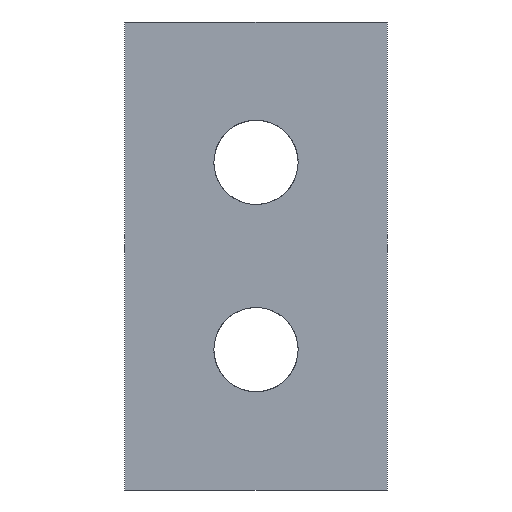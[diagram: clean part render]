
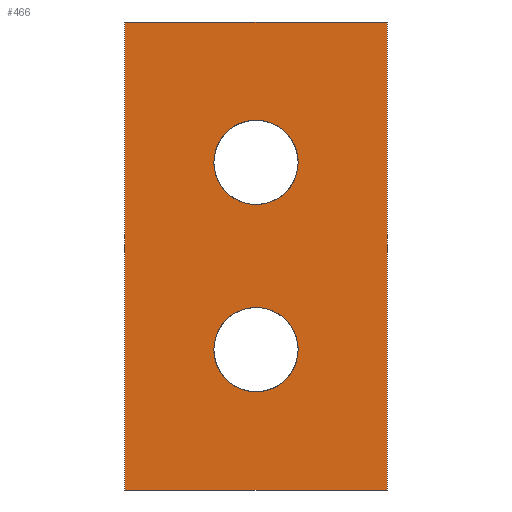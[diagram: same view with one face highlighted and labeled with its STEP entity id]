
A CAD part, front view. The second image highlights one B-rep face of the part: STEP entity #466.
In plain terms, the highlighted face is a extrusion surface.
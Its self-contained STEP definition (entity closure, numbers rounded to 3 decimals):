
#355=CARTESIAN_POINT('Control Point',(-28.,0.,0.)) ;
#356=CARTESIAN_POINT('Control Point',(-28.,0.,-50.)) ;
#360=CARTESIAN_POINT('Line Origine',(-14.,0.,-50.)) ;
#364=CARTESIAN_POINT('Vertex',(-28.,0.,-50.)) ;
#366=CARTESIAN_POINT('Vertex',(0.,0.,-50.)) ;
#369=CARTESIAN_POINT('Line Origine',(0.,0.,-25.)) ;
#373=CARTESIAN_POINT('Vertex',(0.,0.,0.)) ;
#376=CARTESIAN_POINT('Line Origine',(-14.,0.,0.)) ;
#380=CARTESIAN_POINT('Vertex',(-28.,0.,0.)) ;
#383=CARTESIAN_POINT('Line Origine',(-28.,0.,-25.)) ;
#395=CARTESIAN_POINT('Control Point',(-9.5,0.,-35.)) ;
#396=CARTESIAN_POINT('Control Point',(-9.5,0.,-36.247)) ;
#397=CARTESIAN_POINT('Control Point',(-9.932,0.,-37.494)) ;
#398=CARTESIAN_POINT('Control Point',(-10.8,0.,-38.539)) ;
#399=CARTESIAN_POINT('Control Point',(-12.71,0.,-39.63)) ;
#400=CARTESIAN_POINT('Control Point',(-14.841,0.,-39.54)) ;
#401=CARTESIAN_POINT('Control Point',(-15.671,0.,-39.305)) ;
#402=CARTESIAN_POINT('Control Point',(-17.085,0.,-38.511)) ;
#403=CARTESIAN_POINT('Control Point',(-18.032,0.,-37.204)) ;
#404=CARTESIAN_POINT('Control Point',(-18.344,0.,-36.498)) ;
#405=CARTESIAN_POINT('Control Point',(-18.5,0.,-35.749)) ;
#406=CARTESIAN_POINT('Control Point',(-18.5,0.,-35.)) ;
#407=CARTESIAN_POINT('Vertex',(-9.5,0.,-35.)) ;
#409=CARTESIAN_POINT('Vertex',(-18.5,0.,-35.)) ;
#413=CARTESIAN_POINT('Control Point',(-18.5,0.,-35.)) ;
#414=CARTESIAN_POINT('Control Point',(-18.5,0.,-33.753)) ;
#415=CARTESIAN_POINT('Control Point',(-18.068,0.,-32.506)) ;
#416=CARTESIAN_POINT('Control Point',(-17.2,0.,-31.461)) ;
#417=CARTESIAN_POINT('Control Point',(-15.29,0.,-30.37)) ;
#418=CARTESIAN_POINT('Control Point',(-13.159,0.,-30.46)) ;
#419=CARTESIAN_POINT('Control Point',(-12.329,0.,-30.695)) ;
#420=CARTESIAN_POINT('Control Point',(-10.915,0.,-31.489)) ;
#421=CARTESIAN_POINT('Control Point',(-9.968,0.,-32.796)) ;
#422=CARTESIAN_POINT('Control Point',(-9.656,0.,-33.502)) ;
#423=CARTESIAN_POINT('Control Point',(-9.5,0.,-34.251)) ;
#424=CARTESIAN_POINT('Control Point',(-9.5,0.,-35.)) ;
#431=CARTESIAN_POINT('Control Point',(-9.5,0.,-15.)) ;
#432=CARTESIAN_POINT('Control Point',(-9.5,0.,-16.247)) ;
#433=CARTESIAN_POINT('Control Point',(-9.932,0.,-17.494)) ;
#434=CARTESIAN_POINT('Control Point',(-10.8,0.,-18.539)) ;
#435=CARTESIAN_POINT('Control Point',(-12.71,0.,-19.63)) ;
#436=CARTESIAN_POINT('Control Point',(-14.841,0.,-19.54)) ;
#437=CARTESIAN_POINT('Control Point',(-15.671,0.,-19.305)) ;
#438=CARTESIAN_POINT('Control Point',(-17.085,0.,-18.511)) ;
#439=CARTESIAN_POINT('Control Point',(-18.032,0.,-17.204)) ;
#440=CARTESIAN_POINT('Control Point',(-18.344,0.,-16.498)) ;
#441=CARTESIAN_POINT('Control Point',(-18.5,0.,-15.749)) ;
#442=CARTESIAN_POINT('Control Point',(-18.5,0.,-15.)) ;
#443=CARTESIAN_POINT('Vertex',(-9.5,0.,-15.)) ;
#445=CARTESIAN_POINT('Vertex',(-18.5,0.,-15.)) ;
#449=CARTESIAN_POINT('Control Point',(-18.5,0.,-15.)) ;
#450=CARTESIAN_POINT('Control Point',(-18.5,0.,-13.753)) ;
#451=CARTESIAN_POINT('Control Point',(-18.068,0.,-12.506)) ;
#452=CARTESIAN_POINT('Control Point',(-17.2,0.,-11.461)) ;
#453=CARTESIAN_POINT('Control Point',(-15.29,0.,-10.37)) ;
#454=CARTESIAN_POINT('Control Point',(-13.159,0.,-10.46)) ;
#455=CARTESIAN_POINT('Control Point',(-12.329,0.,-10.695)) ;
#456=CARTESIAN_POINT('Control Point',(-10.915,0.,-11.489)) ;
#457=CARTESIAN_POINT('Control Point',(-9.968,0.,-12.796)) ;
#458=CARTESIAN_POINT('Control Point',(-9.656,0.,-13.502)) ;
#459=CARTESIAN_POINT('Control Point',(-9.5,0.,-14.251)) ;
#460=CARTESIAN_POINT('Control Point',(-9.5,0.,-15.)) ;
#357=DIRECTION('Vector Direction',(1.,0.,0.)) ;
#361=DIRECTION('Vector Direction',(1.,0.,0.)) ;
#370=DIRECTION('Vector Direction',(0.,0.,-1.)) ;
#377=DIRECTION('Vector Direction',(1.,0.,0.)) ;
#384=DIRECTION('Vector Direction',(0.,0.,-1.)) ;
#389=ORIENTED_EDGE('',*,*,#368,.T.) ;
#390=ORIENTED_EDGE('',*,*,#375,.T.) ;
#391=ORIENTED_EDGE('',*,*,#382,.T.) ;
#392=ORIENTED_EDGE('',*,*,#387,.T.) ;
#427=ORIENTED_EDGE('',*,*,#411,.T.) ;
#428=ORIENTED_EDGE('',*,*,#425,.T.) ;
#463=ORIENTED_EDGE('',*,*,#447,.T.) ;
#464=ORIENTED_EDGE('',*,*,#461,.T.) ;
#429=FACE_BOUND('',#426,.T.) ;
#465=FACE_BOUND('',#462,.T.) ;
#358=VECTOR('Extrusion Surface Vector',#357,1.) ;
#362=VECTOR('Line Direction',#361,1.) ;
#371=VECTOR('Line Direction',#370,1.) ;
#378=VECTOR('Line Direction',#377,1.) ;
#385=VECTOR('Line Direction',#384,1.) ;
#466=ADVANCED_FACE('Superficie.6',(#393,#429,#465),#359,.T.) ;
#354=B_SPLINE_CURVE_WITH_KNOTS('',1,(#355,#356),.UNSPECIFIED.,.F.,.U.,(2,2),(-25.,25.),.UNSPECIFIED.) ;
#394=B_SPLINE_CURVE_WITH_KNOTS('',5,(#395,#396,#397,#398,#399,#400,#401,#402,#403,#404,#405,#406),.UNSPECIFIED.,.F.,.U.,(6,3,3,6),(0.,8.818,14.697,19.993),.UNSPECIFIED.) ;
#412=B_SPLINE_CURVE_WITH_KNOTS('',5,(#413,#414,#415,#416,#417,#418,#419,#420,#421,#422,#423,#424),.UNSPECIFIED.,.F.,.U.,(6,3,3,6),(0.,8.818,14.697,19.993),.UNSPECIFIED.) ;
#430=B_SPLINE_CURVE_WITH_KNOTS('',5,(#431,#432,#433,#434,#435,#436,#437,#438,#439,#440,#441,#442),.UNSPECIFIED.,.F.,.U.,(6,3,3,6),(0.,8.818,14.697,19.993),.UNSPECIFIED.) ;
#448=B_SPLINE_CURVE_WITH_KNOTS('',5,(#449,#450,#451,#452,#453,#454,#455,#456,#457,#458,#459,#460),.UNSPECIFIED.,.F.,.U.,(6,3,3,6),(0.,8.818,14.697,19.993),.UNSPECIFIED.) ;
#368=EDGE_CURVE('',#365,#367,#363,.T.) ;
#375=EDGE_CURVE('',#367,#374,#372,.F.) ;
#382=EDGE_CURVE('',#374,#381,#379,.F.) ;
#387=EDGE_CURVE('',#381,#365,#386,.T.) ;
#411=EDGE_CURVE('',#408,#410,#394,.T.) ;
#425=EDGE_CURVE('',#410,#408,#412,.T.) ;
#447=EDGE_CURVE('',#444,#446,#430,.T.) ;
#461=EDGE_CURVE('',#446,#444,#448,.T.) ;
#388=EDGE_LOOP('',(#389,#390,#391,#392)) ;
#426=EDGE_LOOP('',(#427,#428)) ;
#462=EDGE_LOOP('',(#463,#464)) ;
#393=FACE_OUTER_BOUND('',#388,.T.) ;
#363=LINE('Line',#360,#362) ;
#372=LINE('Line',#369,#371) ;
#379=LINE('Line',#376,#378) ;
#386=LINE('Line',#383,#385) ;
#359=SURFACE_OF_LINEAR_EXTRUSION('generated tabulated cylinder',#354,#358) ;
#365=VERTEX_POINT('',#364) ;
#367=VERTEX_POINT('',#366) ;
#374=VERTEX_POINT('',#373) ;
#381=VERTEX_POINT('',#380) ;
#408=VERTEX_POINT('',#407) ;
#410=VERTEX_POINT('',#409) ;
#444=VERTEX_POINT('',#443) ;
#446=VERTEX_POINT('',#445) ;
